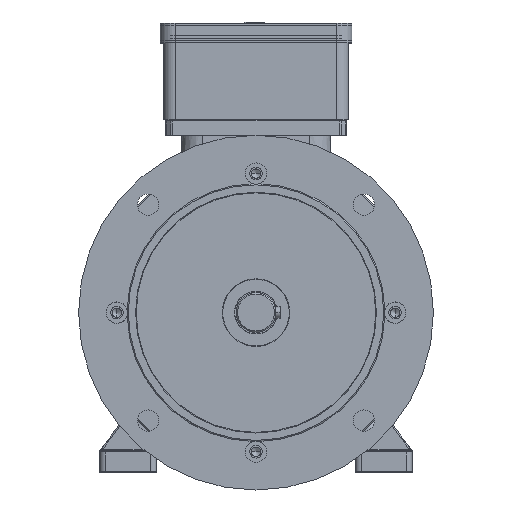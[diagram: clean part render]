
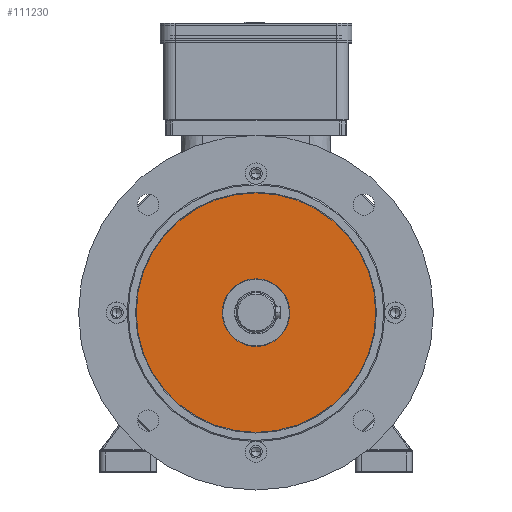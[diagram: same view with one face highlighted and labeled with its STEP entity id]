
A CAD part, top view. The second image highlights one B-rep face of the part: STEP entity #111230.
In plain terms, the highlighted planar face has unit normal (0, 0, 1).
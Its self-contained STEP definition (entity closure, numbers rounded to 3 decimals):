
#1426 = EDGE_LOOP ( 'NONE', ( #26739, #27041 ) ) ;
#11739 = PLANE ( 'NONE',  #27919 ) ;
#15869 = CARTESIAN_POINT ( 'NONE',  ( -84.388, 0., 164. ) ) ;
#17794 = VERTEX_POINT ( 'NONE', #130149 ) ;
#26739 = ORIENTED_EDGE ( 'NONE', *, *, #63589, .T. ) ;
#27008 = FACE_BOUND ( 'NONE', #36933, .T. ) ;
#27041 = ORIENTED_EDGE ( 'NONE', *, *, #89911, .T. ) ;
#27919 = AXIS2_PLACEMENT_3D ( 'NONE', #133467, #83725, #124842 ) ;
#28782 = EDGE_CURVE ( 'NONE', #110067, #17794, #45333, .T. ) ;
#33978 = DIRECTION ( 'NONE',  ( -1., 0., 0. ) ) ;
#36071 = DIRECTION ( 'NONE',  ( 1., 0., 0. ) ) ;
#36206 = AXIS2_PLACEMENT_3D ( 'NONE', #73258, #84979, #94974 ) ;
#36497 = DIRECTION ( 'NONE',  ( 0., 0., 1. ) ) ;
#36933 = EDGE_LOOP ( 'NONE', ( #51294, #63418 ) ) ;
#45333 = CIRCLE ( 'NONE', #123071, 23.815 ) ;
#48297 = EDGE_CURVE ( 'NONE', #17794, #110067, #101677, .T. ) ;
#51294 = ORIENTED_EDGE ( 'NONE', *, *, #28782, .F. ) ;
#54015 = CARTESIAN_POINT ( 'NONE',  ( 23.815, 0., 164. ) ) ;
#55838 = CARTESIAN_POINT ( 'NONE',  ( 0., 0., 164. ) ) ;
#59483 = VERTEX_POINT ( 'NONE', #15869 ) ;
#63418 = ORIENTED_EDGE ( 'NONE', *, *, #48297, .F. ) ;
#63589 = EDGE_CURVE ( 'NONE', #122070, #59483, #67156, .T. ) ;
#67156 = CIRCLE ( 'NONE', #107649, 84.388 ) ;
#73258 = CARTESIAN_POINT ( 'NONE',  ( 0., 0., 164. ) ) ;
#73527 = DIRECTION ( 'NONE',  ( 0., 0., 1. ) ) ;
#73970 = CARTESIAN_POINT ( 'NONE',  ( 0., 0., 164. ) ) ;
#75520 = DIRECTION ( 'NONE',  ( 1., 0., 0. ) ) ;
#83725 = DIRECTION ( 'NONE',  ( 0., 0., 1. ) ) ;
#84979 = DIRECTION ( 'NONE',  ( 0., 0., 1. ) ) ;
#88239 = FACE_OUTER_BOUND ( 'NONE', #1426, .T. ) ;
#89911 = EDGE_CURVE ( 'NONE', #59483, #122070, #122478, .T. ) ;
#94098 = CARTESIAN_POINT ( 'NONE',  ( 0., 0., 164. ) ) ;
#94974 = DIRECTION ( 'NONE',  ( -1., 0., 0. ) ) ;
#99373 = AXIS2_PLACEMENT_3D ( 'NONE', #94098, #114401, #75520 ) ;
#100367 = CARTESIAN_POINT ( 'NONE',  ( 84.388, 0., 164. ) ) ;
#101677 = CIRCLE ( 'NONE', #99373, 23.815 ) ;
#107649 = AXIS2_PLACEMENT_3D ( 'NONE', #73970, #73527, #33978 ) ;
#110067 = VERTEX_POINT ( 'NONE', #54015 ) ;
#111230 = ADVANCED_FACE ( 'NONE', ( #88239, #27008 ), #11739, .T. ) ;
#114401 = DIRECTION ( 'NONE',  ( 0., 0., 1. ) ) ;
#122070 = VERTEX_POINT ( 'NONE', #100367 ) ;
#122478 = CIRCLE ( 'NONE', #36206, 84.388 ) ;
#123071 = AXIS2_PLACEMENT_3D ( 'NONE', #55838, #36497, #36071 ) ;
#124842 = DIRECTION ( 'NONE',  ( 1., 0., 0. ) ) ;
#130149 = CARTESIAN_POINT ( 'NONE',  ( -23.815, 0., 164. ) ) ;
#133467 = CARTESIAN_POINT ( 'NONE',  ( 0., 23.815, 164. ) ) ;
